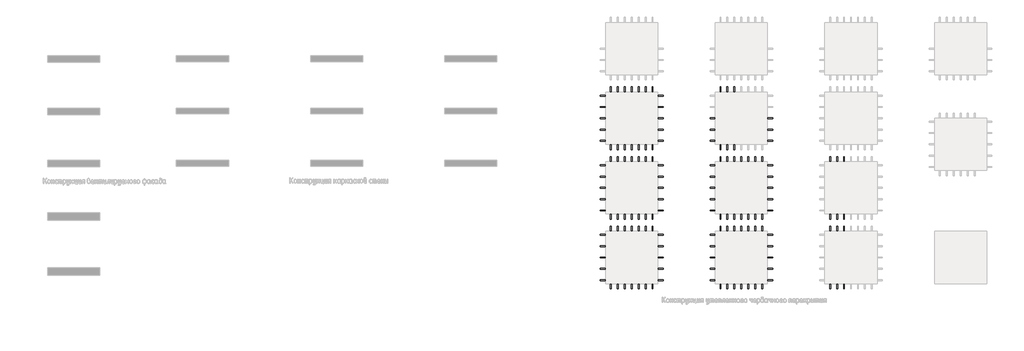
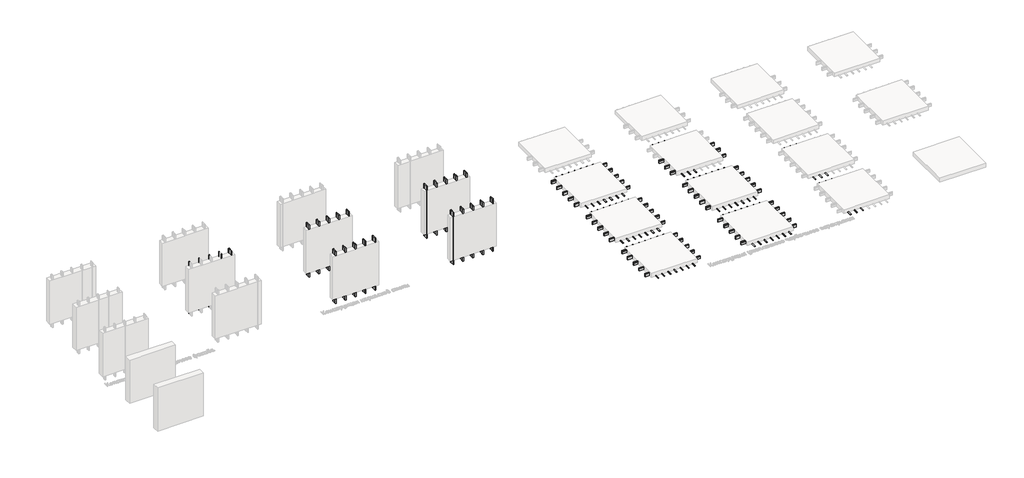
# One storey, part 2 of 42: 168 beams.
"""IFC4 building model written with IfcOpenShell, lengths in millimetres."""

from ifc_helpers import new_model, si_unit, origin, place, context, project, spatial, transform, mapped, element, save
from components import beam_10aa4ee0, beam_54a566a4, beam_d9e12bf5, beam_5dea3e8d

model = new_model("IFC4")

# Units and contexts
model_context = context("Model", 3, world=origin())
ifc_project = project(units=[si_unit("LENGTHUNIT", "METRE", prefix="MILLI")], contexts=[model_context])

# Site, building, storey
site = spatial("IfcSite", under=ifc_project)
building = spatial("IfcBuilding", under=site)
storey = spatial("IfcBuildingStorey", under=building, Name="Этаж 01", Elevation=0.0)

# Beams
placement = place(None, origin())
beam_shape = beam_10aa4ee0(model_context)
element("IfcBeam", 1, ObjectType="Деревянный брус : 50х150", at=placement, inside=storey, context=model_context, shape_type="MappedRepresentation", body=[
    mapped(beam_shape, transform((35613.2067679, -43726.7844763, -151.0), x_axis=(-1.0, 0.0, 0.0), y_axis=(0.0, -1.0, 0.0), z_axis=(0.0, 0.0, 1.0))),
])
element("IfcBeam", 2, ObjectType="Деревянный брус : 50х150", at=placement, inside=storey, context=model_context, shape_type="MappedRepresentation", body=[
    mapped(beam_shape, transform((35613.2067679, -43076.7844763, -151.0), x_axis=(-1.0, 0.0, 0.0), y_axis=(0.0, -1.0, 0.0), z_axis=(0.0, 0.0, 1.0))),
])
element("IfcBeam", 3, ObjectType="Деревянный брус : 50х150", at=placement, inside=storey, context=model_context, shape_type="MappedRepresentation", body=[
    mapped(beam_shape, transform((35613.2067679, -42426.7844763, -151.0), x_axis=(-1.0, 0.0, 0.0), y_axis=(0.0, -1.0, 0.0), z_axis=(0.0, 0.0, 1.0))),
])
element("IfcBeam", 4, ObjectType="Деревянный брус : 50х150", at=placement, inside=storey, context=model_context, shape_type="MappedRepresentation", body=[
    mapped(beam_shape, transform((35613.2067679, -41776.7844763, -151.0), x_axis=(-1.0, 0.0, 0.0), y_axis=(0.0, -1.0, 0.0), z_axis=(0.0, 0.0, 1.0))),
])
element("IfcBeam", 5, ObjectType="Деревянный брус : 50х150", at=placement, inside=storey, context=model_context, shape_type="MappedRepresentation", body=[
    mapped(beam_shape, transform((35613.2067679, -41126.7844763, -151.0), x_axis=(-1.0, 0.0, 0.0), y_axis=(0.0, -1.0, 0.0), z_axis=(0.0, 0.0, 1.0))),
])
element("IfcBeam", 6, ObjectType="Деревянный брус : 50х150", at=placement, inside=storey, context=model_context, shape_type="MappedRepresentation", body=[
    mapped(beam_shape, transform((35613.2067679, -39726.7844763, -151.0), x_axis=(-1.0, 0.0, 0.0), y_axis=(0.0, -1.0, 0.0), z_axis=(0.0, 0.0, 1.0))),
])
element("IfcBeam", 7, ObjectType="Деревянный брус : 50х150", at=placement, inside=storey, context=model_context, shape_type="MappedRepresentation", body=[
    mapped(beam_shape, transform((35613.2067679, -39076.7844763, -151.0), x_axis=(-1.0, 0.0, 0.0), y_axis=(0.0, -1.0, 0.0), z_axis=(0.0, 0.0, 1.0))),
])
element("IfcBeam", 8, ObjectType="Деревянный брус : 50х150", at=placement, inside=storey, context=model_context, shape_type="MappedRepresentation", body=[
    mapped(beam_shape, transform((35613.2067679, -38426.7844763, -151.0), x_axis=(-1.0, 0.0, 0.0), y_axis=(0.0, -1.0, 0.0), z_axis=(0.0, 0.0, 1.0))),
])
element("IfcBeam", 9, ObjectType="Деревянный брус : 50х150", at=placement, inside=storey, context=model_context, shape_type="MappedRepresentation", body=[
    mapped(beam_shape, transform((35613.2067679, -37776.7844763, -151.0), x_axis=(-1.0, 0.0, 0.0), y_axis=(0.0, -1.0, 0.0), z_axis=(0.0, 0.0, 1.0))),
])
element("IfcBeam", 10, ObjectType="Деревянный брус : 50х150", at=placement, inside=storey, context=model_context, shape_type="MappedRepresentation", body=[
    mapped(beam_shape, transform((35613.2067679, -37126.7844763, -151.0), x_axis=(-1.0, 0.0, 0.0), y_axis=(0.0, -1.0, 0.0), z_axis=(0.0, 0.0, 1.0))),
])
element("IfcBeam", 11, ObjectType="Деревянный брус : 50х150", at=placement, inside=storey, context=model_context, shape_type="MappedRepresentation", body=[
    mapped(beam_shape, transform((35613.2067679, -35726.7844763, -151.0), x_axis=(-1.0, 0.0, 0.0), y_axis=(0.0, -1.0, 0.0), z_axis=(0.0, 0.0, 1.0))),
])
element("IfcBeam", 12, ObjectType="Деревянный брус : 50х150", at=placement, inside=storey, context=model_context, shape_type="MappedRepresentation", body=[
    mapped(beam_shape, transform((35613.2067679, -35076.7844763, -151.0), x_axis=(-1.0, 0.0, 0.0), y_axis=(0.0, -1.0, 0.0), z_axis=(0.0, 0.0, 1.0))),
])
element("IfcBeam", 13, ObjectType="Деревянный брус : 50х150", at=placement, inside=storey, context=model_context, shape_type="MappedRepresentation", body=[
    mapped(beam_shape, transform((35613.2067679, -34426.7844763, -151.0), x_axis=(-1.0, 0.0, 0.0), y_axis=(0.0, -1.0, 0.0), z_axis=(0.0, 0.0, 1.0))),
])
element("IfcBeam", 14, ObjectType="Деревянный брус : 50х150", at=placement, inside=storey, context=model_context, shape_type="MappedRepresentation", body=[
    mapped(beam_shape, transform((35613.2067679, -33776.7844763, -151.0), x_axis=(-1.0, 0.0, 0.0), y_axis=(0.0, -1.0, 0.0), z_axis=(0.0, 0.0, 1.0))),
])
element("IfcBeam", 15, ObjectType="Деревянный брус : 50х150", at=placement, inside=storey, context=model_context, shape_type="MappedRepresentation", body=[
    mapped(beam_shape, transform((35613.2067679, -33126.7844763, -151.0), x_axis=(-1.0, 0.0, 0.0), y_axis=(0.0, -1.0, 0.0), z_axis=(0.0, 0.0, 1.0))),
])
element("IfcBeam", 16, ObjectType="Деревянный брус : 50х150", at=placement, inside=storey, context=model_context, shape_type="MappedRepresentation", body=[
    mapped(beam_shape, transform((41913.2067679, -43726.7844763, -151.0), x_axis=(-1.0, 0.0, 0.0), y_axis=(0.0, -1.0, 0.0), z_axis=(0.0, 0.0, 1.0))),
])
element("IfcBeam", 17, ObjectType="Деревянный брус : 50х150", at=placement, inside=storey, context=model_context, shape_type="MappedRepresentation", body=[
    mapped(beam_shape, transform((41913.2067679, -43076.7844763, -151.0), x_axis=(-1.0, 0.0, 0.0), y_axis=(0.0, -1.0, 0.0), z_axis=(0.0, 0.0, 1.0))),
])
element("IfcBeam", 18, ObjectType="Деревянный брус : 50х150", at=placement, inside=storey, context=model_context, shape_type="MappedRepresentation", body=[
    mapped(beam_shape, transform((41913.2067679, -42426.7844763, -151.0), x_axis=(-1.0, 0.0, 0.0), y_axis=(0.0, -1.0, 0.0), z_axis=(0.0, 0.0, 1.0))),
])
element("IfcBeam", 19, ObjectType="Деревянный брус : 50х150", at=placement, inside=storey, context=model_context, shape_type="MappedRepresentation", body=[
    mapped(beam_shape, transform((41913.2067679, -41776.7844763, -151.0), x_axis=(-1.0, 0.0, 0.0), y_axis=(0.0, -1.0, 0.0), z_axis=(0.0, 0.0, 1.0))),
])
element("IfcBeam", 20, ObjectType="Деревянный брус : 50х150", at=placement, inside=storey, context=model_context, shape_type="MappedRepresentation", body=[
    mapped(beam_shape, transform((41913.2067679, -41126.7844763, -151.0), x_axis=(-1.0, 0.0, 0.0), y_axis=(0.0, -1.0, 0.0), z_axis=(0.0, 0.0, 1.0))),
])
element("IfcBeam", 21, ObjectType="Деревянный брус : 50х150", at=placement, inside=storey, context=model_context, shape_type="MappedRepresentation", body=[
    mapped(beam_shape, transform((41913.2067679, -39726.7844763, -151.0), x_axis=(-1.0, 0.0, 0.0), y_axis=(0.0, -1.0, 0.0), z_axis=(0.0, 0.0, 1.0))),
])
element("IfcBeam", 22, ObjectType="Деревянный брус : 50х150", at=placement, inside=storey, context=model_context, shape_type="MappedRepresentation", body=[
    mapped(beam_shape, transform((41913.2067679, -39076.7844763, -151.0), x_axis=(-1.0, 0.0, 0.0), y_axis=(0.0, -1.0, 0.0), z_axis=(0.0, 0.0, 1.0))),
])
element("IfcBeam", 23, ObjectType="Деревянный брус : 50х150", at=placement, inside=storey, context=model_context, shape_type="MappedRepresentation", body=[
    mapped(beam_shape, transform((41913.2067679, -38426.7844763, -151.0), x_axis=(-1.0, 0.0, 0.0), y_axis=(0.0, -1.0, 0.0), z_axis=(0.0, 0.0, 1.0))),
])
element("IfcBeam", 24, ObjectType="Деревянный брус : 50х150", at=placement, inside=storey, context=model_context, shape_type="MappedRepresentation", body=[
    mapped(beam_shape, transform((41913.2067679, -37776.7844763, -151.0), x_axis=(-1.0, 0.0, 0.0), y_axis=(0.0, -1.0, 0.0), z_axis=(0.0, 0.0, 1.0))),
])
element("IfcBeam", 25, ObjectType="Деревянный брус : 50х150", at=placement, inside=storey, context=model_context, shape_type="MappedRepresentation", body=[
    mapped(beam_shape, transform((41913.2067679, -37126.7844763, -151.0), x_axis=(-1.0, 0.0, 0.0), y_axis=(0.0, -1.0, 0.0), z_axis=(0.0, 0.0, 1.0))),
])
element("IfcBeam", 26, ObjectType="Деревянный брус : 50х150", at=placement, inside=storey, context=model_context, shape_type="MappedRepresentation", body=[
    mapped(beam_shape, transform((41913.2067679, -35726.7844763, -151.0), x_axis=(-1.0, 0.0, 0.0), y_axis=(0.0, -1.0, 0.0), z_axis=(0.0, 0.0, 1.0))),
])
element("IfcBeam", 27, ObjectType="Деревянный брус : 50х150", at=placement, inside=storey, context=model_context, shape_type="MappedRepresentation", body=[
    mapped(beam_shape, transform((41913.2067679, -35076.7844763, -151.0), x_axis=(-1.0, 0.0, 0.0), y_axis=(0.0, -1.0, 0.0), z_axis=(0.0, 0.0, 1.0))),
])
element("IfcBeam", 28, ObjectType="Деревянный брус : 50х150", at=placement, inside=storey, context=model_context, shape_type="MappedRepresentation", body=[
    mapped(beam_shape, transform((41913.2067679, -34426.7844763, -151.0), x_axis=(-1.0, 0.0, 0.0), y_axis=(0.0, -1.0, 0.0), z_axis=(0.0, 0.0, 1.0))),
])
beam_2_shape = beam_54a566a4(model_context)
element("IfcBeam", 29, ObjectType="Деревянный брус : 50х50", at=placement, inside=storey, context=model_context, shape_type="MappedRepresentation", body=[
    mapped(beam_2_shape, transform((35613.2067679, -43726.7844763, -50.0), x_axis=(-1.0, 0.0, 0.0), y_axis=(0.0, -1.0, 0.0), z_axis=(0.0, 0.0, 1.0))),
])
element("IfcBeam", 30, ObjectType="Деревянный брус : 50х50", at=placement, inside=storey, context=model_context, shape_type="MappedRepresentation", body=[
    mapped(beam_2_shape, transform((35613.2067679, -43076.7844763, -50.0), x_axis=(-1.0, 0.0, 0.0), y_axis=(0.0, -1.0, 0.0), z_axis=(0.0, 0.0, 1.0))),
])
element("IfcBeam", 31, ObjectType="Деревянный брус : 50х50", at=placement, inside=storey, context=model_context, shape_type="MappedRepresentation", body=[
    mapped(beam_2_shape, transform((35613.2067679, -42426.7844763, -50.0), x_axis=(-1.0, 0.0, 0.0), y_axis=(0.0, -1.0, 0.0), z_axis=(0.0, 0.0, 1.0))),
])
element("IfcBeam", 32, ObjectType="Деревянный брус : 50х50", at=placement, inside=storey, context=model_context, shape_type="MappedRepresentation", body=[
    mapped(beam_2_shape, transform((35613.2067679, -41776.7844763, -50.0), x_axis=(-1.0, 0.0, 0.0), y_axis=(0.0, -1.0, 0.0), z_axis=(0.0, 0.0, 1.0))),
])
element("IfcBeam", 33, ObjectType="Деревянный брус : 50х50", at=placement, inside=storey, context=model_context, shape_type="MappedRepresentation", body=[
    mapped(beam_2_shape, transform((35613.2067679, -41126.7844763, -50.0), x_axis=(-1.0, 0.0, 0.0), y_axis=(0.0, -1.0, 0.0), z_axis=(0.0, 0.0, 1.0))),
])
element("IfcBeam", 34, ObjectType="Деревянный брус : 50х50", at=placement, inside=storey, context=model_context, shape_type="MappedRepresentation", body=[
    mapped(beam_2_shape, transform((12263.2067679, -34135.8929597, 1500.0), x_axis=(0.0, 0.0, -1.0), y_axis=(-1.0, 0.0, 0.0), z_axis=(0.0, 1.0, 0.0))),
])
element("IfcBeam", 35, ObjectType="Деревянный брус : 50х50", at=placement, inside=storey, context=model_context, shape_type="MappedRepresentation", body=[
    mapped(beam_2_shape, transform((11613.2067679, -34135.8929597, 1500.0), x_axis=(0.0, 0.0, -1.0), y_axis=(-1.0, 0.0, 0.0), z_axis=(0.0, 1.0, 0.0))),
])
element("IfcBeam", 36, ObjectType="Деревянный брус : 50х50", at=placement, inside=storey, context=model_context, shape_type="MappedRepresentation", body=[
    mapped(beam_2_shape, transform((12263.2067679, -33883.8929597, 1500.0), x_axis=(0.0, 0.0, -1.0), y_axis=(1.0, 0.0, 0.0), z_axis=(0.0, -1.0, 0.0))),
])
element("IfcBeam", 37, ObjectType="Деревянный брус : 50х50", at=placement, inside=storey, context=model_context, shape_type="MappedRepresentation", body=[
    mapped(beam_2_shape, transform((11613.2067679, -33883.8929597, 1500.0), x_axis=(0.0, 0.0, -1.0), y_axis=(1.0, 0.0, 0.0), z_axis=(0.0, -1.0, 0.0))),
])
element("IfcBeam", 38, ObjectType="Деревянный брус : 50х50", at=placement, inside=storey, context=model_context, shape_type="MappedRepresentation", body=[
    mapped(beam_2_shape, transform((10963.2067679, -33883.8929597, 1500.0), x_axis=(0.0, 0.0, -1.0), y_axis=(1.0, 0.0, 0.0), z_axis=(0.0, -1.0, 0.0))),
])
element("IfcBeam", 39, ObjectType="Деревянный брус : 50х50", at=placement, inside=storey, context=model_context, shape_type="MappedRepresentation", body=[
    mapped(beam_2_shape, transform((10313.2067679, -33883.8929597, 1500.0), x_axis=(0.0, 0.0, -1.0), y_axis=(1.0, 0.0, 0.0), z_axis=(0.0, -1.0, 0.0))),
])
element("IfcBeam", 40, ObjectType="Деревянный брус : 50х50", at=placement, inside=storey, context=model_context, shape_type="MappedRepresentation", body=[
    mapped(beam_2_shape, transform((9663.2067679, -33883.8929597, 1500.0), x_axis=(0.0, 0.0, -1.0), y_axis=(1.0, 0.0, 0.0), z_axis=(0.0, -1.0, 0.0))),
])
element("IfcBeam", 41, ObjectType="Деревянный брус : 50х50", at=placement, inside=storey, context=model_context, shape_type="MappedRepresentation", body=[
    mapped(beam_2_shape, transform((19963.2067679, -37135.8929597, 1500.0), x_axis=(0.0, 0.0, -1.0), y_axis=(-1.0, 0.0, 0.0), z_axis=(0.0, 1.0, 0.0))),
])
element("IfcBeam", 42, ObjectType="Деревянный брус : 50х50", at=placement, inside=storey, context=model_context, shape_type="MappedRepresentation", body=[
    mapped(beam_2_shape, transform((19313.2067679, -37135.8929597, 1500.0), x_axis=(0.0, 0.0, -1.0), y_axis=(-1.0, 0.0, 0.0), z_axis=(0.0, 1.0, 0.0))),
])
element("IfcBeam", 43, ObjectType="Деревянный брус : 50х50", at=placement, inside=storey, context=model_context, shape_type="MappedRepresentation", body=[
    mapped(beam_2_shape, transform((18663.2067679, -37135.8929597, 1500.0), x_axis=(0.0, 0.0, -1.0), y_axis=(-1.0, 0.0, 0.0), z_axis=(0.0, 1.0, 0.0))),
])
element("IfcBeam", 44, ObjectType="Деревянный брус : 50х50", at=placement, inside=storey, context=model_context, shape_type="MappedRepresentation", body=[
    mapped(beam_2_shape, transform((18013.2067679, -37135.8929597, 1500.0), x_axis=(0.0, 0.0, -1.0), y_axis=(-1.0, 0.0, 0.0), z_axis=(0.0, 1.0, 0.0))),
])
element("IfcBeam", 45, ObjectType="Деревянный брус : 50х50", at=placement, inside=storey, context=model_context, shape_type="MappedRepresentation", body=[
    mapped(beam_2_shape, transform((17363.2067679, -37135.8929597, 1500.0), x_axis=(0.0, 0.0, -1.0), y_axis=(-1.0, 0.0, 0.0), z_axis=(0.0, 1.0, 0.0))),
])
element("IfcBeam", 46, ObjectType="Деревянный брус : 50х50", at=placement, inside=storey, context=model_context, shape_type="MappedRepresentation", body=[
    mapped(beam_2_shape, transform((19963.2067679, -36883.8929597, 1500.0), x_axis=(0.0, 0.0, -1.0), y_axis=(1.0, 0.0, 0.0), z_axis=(0.0, -1.0, 0.0))),
])
element("IfcBeam", 47, ObjectType="Деревянный брус : 50х50", at=placement, inside=storey, context=model_context, shape_type="MappedRepresentation", body=[
    mapped(beam_2_shape, transform((19313.2067679, -36883.8929597, 1500.0), x_axis=(0.0, 0.0, -1.0), y_axis=(1.0, 0.0, 0.0), z_axis=(0.0, -1.0, 0.0))),
])
element("IfcBeam", 48, ObjectType="Деревянный брус : 50х50", at=placement, inside=storey, context=model_context, shape_type="MappedRepresentation", body=[
    mapped(beam_2_shape, transform((18663.2067679, -36883.8929597, 1500.0), x_axis=(0.0, 0.0, -1.0), y_axis=(1.0, 0.0, 0.0), z_axis=(0.0, -1.0, 0.0))),
])
element("IfcBeam", 49, ObjectType="Деревянный брус : 50х50", at=placement, inside=storey, context=model_context, shape_type="MappedRepresentation", body=[
    mapped(beam_2_shape, transform((18013.2067679, -36883.8929597, 1500.0), x_axis=(0.0, 0.0, -1.0), y_axis=(1.0, 0.0, 0.0), z_axis=(0.0, -1.0, 0.0))),
])
element("IfcBeam", 50, ObjectType="Деревянный брус : 50х50", at=placement, inside=storey, context=model_context, shape_type="MappedRepresentation", body=[
    mapped(beam_2_shape, transform((17363.2067679, -36883.8929597, 1500.0), x_axis=(0.0, 0.0, -1.0), y_axis=(1.0, 0.0, 0.0), z_axis=(0.0, -1.0, 0.0))),
])
element("IfcBeam", 51, ObjectType="Деревянный брус : 50х50", at=placement, inside=storey, context=model_context, shape_type="MappedRepresentation", body=[
    mapped(beam_2_shape, transform((19963.2067679, -34135.8929597, 1500.0), x_axis=(0.0, 0.0, -1.0), y_axis=(-1.0, 0.0, 0.0), z_axis=(0.0, 1.0, 0.0))),
])
element("IfcBeam", 52, ObjectType="Деревянный брус : 50х50", at=placement, inside=storey, context=model_context, shape_type="MappedRepresentation", body=[
    mapped(beam_2_shape, transform((19313.2067679, -34135.8929597, 1500.0), x_axis=(0.0, 0.0, -1.0), y_axis=(-1.0, 0.0, 0.0), z_axis=(0.0, 1.0, 0.0))),
])
element("IfcBeam", 53, ObjectType="Деревянный брус : 50х50", at=placement, inside=storey, context=model_context, shape_type="MappedRepresentation", body=[
    mapped(beam_2_shape, transform((18663.2067679, -34135.8929597, 1500.0), x_axis=(0.0, 0.0, -1.0), y_axis=(-1.0, 0.0, 0.0), z_axis=(0.0, 1.0, 0.0))),
])
element("IfcBeam", 54, ObjectType="Деревянный брус : 50х50", at=placement, inside=storey, context=model_context, shape_type="MappedRepresentation", body=[
    mapped(beam_2_shape, transform((18013.2067679, -34135.8929597, 1500.0), x_axis=(0.0, 0.0, -1.0), y_axis=(-1.0, 0.0, 0.0), z_axis=(0.0, 1.0, 0.0))),
])
element("IfcBeam", 55, ObjectType="Деревянный брус : 50х50", at=placement, inside=storey, context=model_context, shape_type="MappedRepresentation", body=[
    mapped(beam_2_shape, transform((17363.2067679, -34135.8929597, 1500.0), x_axis=(0.0, 0.0, -1.0), y_axis=(-1.0, 0.0, 0.0), z_axis=(0.0, 1.0, 0.0))),
])
element("IfcBeam", 56, ObjectType="Деревянный брус : 50х50", at=placement, inside=storey, context=model_context, shape_type="MappedRepresentation", body=[
    mapped(beam_2_shape, transform((19963.2067679, -33883.8929597, 1500.0), x_axis=(0.0, 0.0, -1.0), y_axis=(1.0, 0.0, 0.0), z_axis=(0.0, -1.0, 0.0))),
])
element("IfcBeam", 57, ObjectType="Деревянный брус : 50х50", at=placement, inside=storey, context=model_context, shape_type="MappedRepresentation", body=[
    mapped(beam_2_shape, transform((19313.2067679, -33883.8929597, 1500.0), x_axis=(0.0, 0.0, -1.0), y_axis=(1.0, 0.0, 0.0), z_axis=(0.0, -1.0, 0.0))),
])
element("IfcBeam", 58, ObjectType="Деревянный брус : 50х50", at=placement, inside=storey, context=model_context, shape_type="MappedRepresentation", body=[
    mapped(beam_2_shape, transform((18663.2067679, -33883.8929597, 1500.0), x_axis=(0.0, 0.0, -1.0), y_axis=(1.0, 0.0, 0.0), z_axis=(0.0, -1.0, 0.0))),
])
element("IfcBeam", 59, ObjectType="Деревянный брус : 50х50", at=placement, inside=storey, context=model_context, shape_type="MappedRepresentation", body=[
    mapped(beam_2_shape, transform((18013.2067679, -33883.8929597, 1500.0), x_axis=(0.0, 0.0, -1.0), y_axis=(1.0, 0.0, 0.0), z_axis=(0.0, -1.0, 0.0))),
])
element("IfcBeam", 60, ObjectType="Деревянный брус : 50х50", at=placement, inside=storey, context=model_context, shape_type="MappedRepresentation", body=[
    mapped(beam_2_shape, transform((17363.2067679, -33883.8929597, 1500.0), x_axis=(0.0, 0.0, -1.0), y_axis=(1.0, 0.0, 0.0), z_axis=(0.0, -1.0, 0.0))),
])
element("IfcBeam", 61, ObjectType="Деревянный брус : 50х50", at=placement, inside=storey, context=model_context, shape_type="MappedRepresentation", body=[
    mapped(beam_2_shape, transform((27663.2067679, -37135.8929597, 1500.0), x_axis=(0.0, 0.0, -1.0), y_axis=(-1.0, 0.0, 0.0), z_axis=(0.0, 1.0, 0.0))),
])
element("IfcBeam", 62, ObjectType="Деревянный брус : 50х50", at=placement, inside=storey, context=model_context, shape_type="MappedRepresentation", body=[
    mapped(beam_2_shape, transform((27013.2067679, -37135.8929597, 1500.0), x_axis=(0.0, 0.0, -1.0), y_axis=(-1.0, 0.0, 0.0), z_axis=(0.0, 1.0, 0.0))),
])
element("IfcBeam", 63, ObjectType="Деревянный брус : 50х50", at=placement, inside=storey, context=model_context, shape_type="MappedRepresentation", body=[
    mapped(beam_2_shape, transform((26363.2067679, -37135.8929597, 1500.0), x_axis=(0.0, 0.0, -1.0), y_axis=(-1.0, 0.0, 0.0), z_axis=(0.0, 1.0, 0.0))),
])
element("IfcBeam", 64, ObjectType="Деревянный брус : 50х50", at=placement, inside=storey, context=model_context, shape_type="MappedRepresentation", body=[
    mapped(beam_2_shape, transform((25713.2067679, -37135.8929597, 1500.0), x_axis=(0.0, 0.0, -1.0), y_axis=(-1.0, 0.0, 0.0), z_axis=(0.0, 1.0, 0.0))),
])
element("IfcBeam", 65, ObjectType="Деревянный брус : 50х50", at=placement, inside=storey, context=model_context, shape_type="MappedRepresentation", body=[
    mapped(beam_2_shape, transform((25063.2067679, -37135.8929597, 1500.0), x_axis=(0.0, 0.0, -1.0), y_axis=(-1.0, 0.0, 0.0), z_axis=(0.0, 1.0, 0.0))),
])
element("IfcBeam", 66, ObjectType="Деревянный брус : 50х50", at=placement, inside=storey, context=model_context, shape_type="MappedRepresentation", body=[
    mapped(beam_2_shape, transform((27663.2067679, -36883.8929597, 1500.0), x_axis=(0.0, 0.0, -1.0), y_axis=(1.0, 0.0, 0.0), z_axis=(0.0, -1.0, 0.0))),
])
element("IfcBeam", 67, ObjectType="Деревянный брус : 50х50", at=placement, inside=storey, context=model_context, shape_type="MappedRepresentation", body=[
    mapped(beam_2_shape, transform((27013.2067679, -36883.8929597, 1500.0), x_axis=(0.0, 0.0, -1.0), y_axis=(1.0, 0.0, 0.0), z_axis=(0.0, -1.0, 0.0))),
])
element("IfcBeam", 68, ObjectType="Деревянный брус : 50х50", at=placement, inside=storey, context=model_context, shape_type="MappedRepresentation", body=[
    mapped(beam_2_shape, transform((26363.2067679, -36883.8929597, 1500.0), x_axis=(0.0, 0.0, -1.0), y_axis=(1.0, 0.0, 0.0), z_axis=(0.0, -1.0, 0.0))),
])
element("IfcBeam", 69, ObjectType="Деревянный брус : 50х50", at=placement, inside=storey, context=model_context, shape_type="MappedRepresentation", body=[
    mapped(beam_2_shape, transform((25713.2067679, -36883.8929597, 1500.0), x_axis=(0.0, 0.0, -1.0), y_axis=(1.0, 0.0, 0.0), z_axis=(0.0, -1.0, 0.0))),
])
element("IfcBeam", 70, ObjectType="Деревянный брус : 50х50", at=placement, inside=storey, context=model_context, shape_type="MappedRepresentation", body=[
    mapped(beam_2_shape, transform((25063.2067679, -36883.8929597, 1500.0), x_axis=(0.0, 0.0, -1.0), y_axis=(1.0, 0.0, 0.0), z_axis=(0.0, -1.0, 0.0))),
])
element("IfcBeam", 71, ObjectType="Деревянный брус : 50х50", at=placement, inside=storey, context=model_context, shape_type="MappedRepresentation", body=[
    mapped(beam_2_shape, transform((27663.2067679, -34135.8929597, 1500.0), x_axis=(0.0, 0.0, -1.0), y_axis=(-1.0, 0.0, 0.0), z_axis=(0.0, 1.0, 0.0))),
])
element("IfcBeam", 72, ObjectType="Деревянный брус : 50х50", at=placement, inside=storey, context=model_context, shape_type="MappedRepresentation", body=[
    mapped(beam_2_shape, transform((27013.2067679, -34135.8929597, 1500.0), x_axis=(0.0, 0.0, -1.0), y_axis=(-1.0, 0.0, 0.0), z_axis=(0.0, 1.0, 0.0))),
])
element("IfcBeam", 73, ObjectType="Деревянный брус : 50х50", at=placement, inside=storey, context=model_context, shape_type="MappedRepresentation", body=[
    mapped(beam_2_shape, transform((26363.2067679, -34135.8929597, 1500.0), x_axis=(0.0, 0.0, -1.0), y_axis=(-1.0, 0.0, 0.0), z_axis=(0.0, 1.0, 0.0))),
])
element("IfcBeam", 74, ObjectType="Деревянный брус : 50х50", at=placement, inside=storey, context=model_context, shape_type="MappedRepresentation", body=[
    mapped(beam_2_shape, transform((25713.2067679, -34135.8929597, 1500.0), x_axis=(0.0, 0.0, -1.0), y_axis=(-1.0, 0.0, 0.0), z_axis=(0.0, 1.0, 0.0))),
])
element("IfcBeam", 75, ObjectType="Деревянный брус : 50х50", at=placement, inside=storey, context=model_context, shape_type="MappedRepresentation", body=[
    mapped(beam_2_shape, transform((25063.2067679, -34135.8929597, 1500.0), x_axis=(0.0, 0.0, -1.0), y_axis=(-1.0, 0.0, 0.0), z_axis=(0.0, 1.0, 0.0))),
])
element("IfcBeam", 76, ObjectType="Деревянный брус : 50х50", at=placement, inside=storey, context=model_context, shape_type="MappedRepresentation", body=[
    mapped(beam_2_shape, transform((27663.2067679, -33883.8929597, 1500.0), x_axis=(0.0, 0.0, -1.0), y_axis=(1.0, 0.0, 0.0), z_axis=(0.0, -1.0, 0.0))),
])
element("IfcBeam", 77, ObjectType="Деревянный брус : 50х50", at=placement, inside=storey, context=model_context, shape_type="MappedRepresentation", body=[
    mapped(beam_2_shape, transform((27013.2067679, -33883.8929597, 1500.0), x_axis=(0.0, 0.0, -1.0), y_axis=(1.0, 0.0, 0.0), z_axis=(0.0, -1.0, 0.0))),
])
element("IfcBeam", 78, ObjectType="Деревянный брус : 50х50", at=placement, inside=storey, context=model_context, shape_type="MappedRepresentation", body=[
    mapped(beam_2_shape, transform((26363.2067679, -33883.8929597, 1500.0), x_axis=(0.0, 0.0, -1.0), y_axis=(1.0, 0.0, 0.0), z_axis=(0.0, -1.0, 0.0))),
])
element("IfcBeam", 79, ObjectType="Деревянный брус : 50х50", at=placement, inside=storey, context=model_context, shape_type="MappedRepresentation", body=[
    mapped(beam_2_shape, transform((25713.2067679, -33883.8929597, 1500.0), x_axis=(0.0, 0.0, -1.0), y_axis=(1.0, 0.0, 0.0), z_axis=(0.0, -1.0, 0.0))),
])
element("IfcBeam", 80, ObjectType="Деревянный брус : 50х50", at=placement, inside=storey, context=model_context, shape_type="MappedRepresentation", body=[
    mapped(beam_2_shape, transform((25063.2067679, -33883.8929597, 1500.0), x_axis=(0.0, 0.0, -1.0), y_axis=(1.0, 0.0, 0.0), z_axis=(0.0, -1.0, 0.0))),
])
element("IfcBeam", 81, ObjectType="Деревянный брус : 50х50", at=placement, inside=storey, context=model_context, shape_type="MappedRepresentation", body=[
    mapped(beam_2_shape, transform((35613.2067679, -39726.7844763, -50.0), x_axis=(-1.0, 0.0, 0.0), y_axis=(0.0, -1.0, 0.0), z_axis=(0.0, 0.0, 1.0))),
])
element("IfcBeam", 82, ObjectType="Деревянный брус : 50х50", at=placement, inside=storey, context=model_context, shape_type="MappedRepresentation", body=[
    mapped(beam_2_shape, transform((35613.2067679, -39076.7844763, -50.0), x_axis=(-1.0, 0.0, 0.0), y_axis=(0.0, -1.0, 0.0), z_axis=(0.0, 0.0, 1.0))),
])
element("IfcBeam", 83, ObjectType="Деревянный брус : 50х50", at=placement, inside=storey, context=model_context, shape_type="MappedRepresentation", body=[
    mapped(beam_2_shape, transform((35613.2067679, -38426.7844763, -50.0), x_axis=(-1.0, 0.0, 0.0), y_axis=(0.0, -1.0, 0.0), z_axis=(0.0, 0.0, 1.0))),
])
element("IfcBeam", 84, ObjectType="Деревянный брус : 50х50", at=placement, inside=storey, context=model_context, shape_type="MappedRepresentation", body=[
    mapped(beam_2_shape, transform((35613.2067679, -37776.7844763, -50.0), x_axis=(-1.0, 0.0, 0.0), y_axis=(0.0, -1.0, 0.0), z_axis=(0.0, 0.0, 1.0))),
])
element("IfcBeam", 85, ObjectType="Деревянный брус : 50х50", at=placement, inside=storey, context=model_context, shape_type="MappedRepresentation", body=[
    mapped(beam_2_shape, transform((35613.2067679, -37126.7844763, -50.0), x_axis=(-1.0, 0.0, 0.0), y_axis=(0.0, -1.0, 0.0), z_axis=(0.0, 0.0, 1.0))),
])
element("IfcBeam", 86, ObjectType="Деревянный брус : 50х50", at=placement, inside=storey, context=model_context, shape_type="MappedRepresentation", body=[
    mapped(beam_2_shape, transform((35613.2067679, -35726.7844763, -50.0), x_axis=(-1.0, 0.0, 0.0), y_axis=(0.0, -1.0, 0.0), z_axis=(0.0, 0.0, 1.0))),
])
element("IfcBeam", 87, ObjectType="Деревянный брус : 50х50", at=placement, inside=storey, context=model_context, shape_type="MappedRepresentation", body=[
    mapped(beam_2_shape, transform((35613.2067679, -35076.7844763, -50.0), x_axis=(-1.0, 0.0, 0.0), y_axis=(0.0, -1.0, 0.0), z_axis=(0.0, 0.0, 1.0))),
])
element("IfcBeam", 88, ObjectType="Деревянный брус : 50х50", at=placement, inside=storey, context=model_context, shape_type="MappedRepresentation", body=[
    mapped(beam_2_shape, transform((35613.2067679, -34426.7844763, -50.0), x_axis=(-1.0, 0.0, 0.0), y_axis=(0.0, -1.0, 0.0), z_axis=(0.0, 0.0, 1.0))),
])
element("IfcBeam", 89, ObjectType="Деревянный брус : 50х50", at=placement, inside=storey, context=model_context, shape_type="MappedRepresentation", body=[
    mapped(beam_2_shape, transform((35613.2067679, -33776.7844763, -50.0), x_axis=(-1.0, 0.0, 0.0), y_axis=(0.0, -1.0, 0.0), z_axis=(0.0, 0.0, 1.0))),
])
element("IfcBeam", 90, ObjectType="Деревянный брус : 50х50", at=placement, inside=storey, context=model_context, shape_type="MappedRepresentation", body=[
    mapped(beam_2_shape, transform((35613.2067679, -33126.7844763, -50.0), x_axis=(-1.0, 0.0, 0.0), y_axis=(0.0, -1.0, 0.0), z_axis=(0.0, 0.0, 1.0))),
])
element("IfcBeam", 91, ObjectType="Деревянный брус : 50х50", at=placement, inside=storey, context=model_context, shape_type="MappedRepresentation", body=[
    mapped(beam_2_shape, transform((41913.2067679, -43726.7844763, -50.0), x_axis=(-1.0, 0.0, 0.0), y_axis=(0.0, -1.0, 0.0), z_axis=(0.0, 0.0, 1.0))),
])
element("IfcBeam", 92, ObjectType="Деревянный брус : 50х50", at=placement, inside=storey, context=model_context, shape_type="MappedRepresentation", body=[
    mapped(beam_2_shape, transform((41913.2067679, -43076.7844763, -50.0), x_axis=(-1.0, 0.0, 0.0), y_axis=(0.0, -1.0, 0.0), z_axis=(0.0, 0.0, 1.0))),
])
element("IfcBeam", 93, ObjectType="Деревянный брус : 50х50", at=placement, inside=storey, context=model_context, shape_type="MappedRepresentation", body=[
    mapped(beam_2_shape, transform((41913.2067679, -42426.7844763, -50.0), x_axis=(-1.0, 0.0, 0.0), y_axis=(0.0, -1.0, 0.0), z_axis=(0.0, 0.0, 1.0))),
])
element("IfcBeam", 94, ObjectType="Деревянный брус : 50х50", at=placement, inside=storey, context=model_context, shape_type="MappedRepresentation", body=[
    mapped(beam_2_shape, transform((41913.2067679, -41776.7844763, -50.0), x_axis=(-1.0, 0.0, 0.0), y_axis=(0.0, -1.0, 0.0), z_axis=(0.0, 0.0, 1.0))),
])
element("IfcBeam", 95, ObjectType="Деревянный брус : 50х50", at=placement, inside=storey, context=model_context, shape_type="MappedRepresentation", body=[
    mapped(beam_2_shape, transform((41913.2067679, -41126.7844763, -50.0), x_axis=(-1.0, 0.0, 0.0), y_axis=(0.0, -1.0, 0.0), z_axis=(0.0, 0.0, 1.0))),
])
element("IfcBeam", 96, ObjectType="Деревянный брус : 50х50", at=placement, inside=storey, context=model_context, shape_type="MappedRepresentation", body=[
    mapped(beam_2_shape, transform((41913.2067679, -39726.7844763, -50.0), x_axis=(-1.0, 0.0, 0.0), y_axis=(0.0, -1.0, 0.0), z_axis=(0.0, 0.0, 1.0))),
])
element("IfcBeam", 97, ObjectType="Деревянный брус : 50х50", at=placement, inside=storey, context=model_context, shape_type="MappedRepresentation", body=[
    mapped(beam_2_shape, transform((41913.2067679, -39076.7844763, -50.0), x_axis=(-1.0, 0.0, 0.0), y_axis=(0.0, -1.0, 0.0), z_axis=(0.0, 0.0, 1.0))),
])
element("IfcBeam", 98, ObjectType="Деревянный брус : 50х50", at=placement, inside=storey, context=model_context, shape_type="MappedRepresentation", body=[
    mapped(beam_2_shape, transform((41913.2067679, -38426.7844763, -50.0), x_axis=(-1.0, 0.0, 0.0), y_axis=(0.0, -1.0, 0.0), z_axis=(0.0, 0.0, 1.0))),
])
element("IfcBeam", 99, ObjectType="Деревянный брус : 50х50", at=placement, inside=storey, context=model_context, shape_type="MappedRepresentation", body=[
    mapped(beam_2_shape, transform((41913.2067679, -37776.7844763, -50.0), x_axis=(-1.0, 0.0, 0.0), y_axis=(0.0, -1.0, 0.0), z_axis=(0.0, 0.0, 1.0))),
])
element("IfcBeam", 100, ObjectType="Деревянный брус : 50х50", at=placement, inside=storey, context=model_context, shape_type="MappedRepresentation", body=[
    mapped(beam_2_shape, transform((41913.2067679, -37126.7844763, -50.0), x_axis=(-1.0, 0.0, 0.0), y_axis=(0.0, -1.0, 0.0), z_axis=(0.0, 0.0, 1.0))),
])
element("IfcBeam", 101, ObjectType="Деревянный брус : 50х50", at=placement, inside=storey, context=model_context, shape_type="MappedRepresentation", body=[
    mapped(beam_2_shape, transform((41913.2067679, -35726.7844763, -50.0), x_axis=(-1.0, 0.0, 0.0), y_axis=(0.0, -1.0, 0.0), z_axis=(0.0, 0.0, 1.0))),
])
element("IfcBeam", 102, ObjectType="Деревянный брус : 50х50", at=placement, inside=storey, context=model_context, shape_type="MappedRepresentation", body=[
    mapped(beam_2_shape, transform((41913.2067679, -35076.7844763, -50.0), x_axis=(-1.0, 0.0, 0.0), y_axis=(0.0, -1.0, 0.0), z_axis=(0.0, 0.0, 1.0))),
])
element("IfcBeam", 103, ObjectType="Деревянный брус : 50х50", at=placement, inside=storey, context=model_context, shape_type="MappedRepresentation", body=[
    mapped(beam_2_shape, transform((41913.2067679, -34426.7844763, -50.0), x_axis=(-1.0, 0.0, 0.0), y_axis=(0.0, -1.0, 0.0), z_axis=(0.0, 0.0, 1.0))),
])
beam_3_shape = beam_d9e12bf5(model_context)
element("IfcBeam", 104, ObjectType="Деревянный брус : 50х25", at=placement, inside=storey, context=model_context, shape_type="MappedRepresentation", body=[
    mapped(beam_3_shape, transform((34413.2067679, -42426.7844763, -239.5), x_axis=(0.0, 1.0, 0.0), y_axis=(-1.0, 0.0, 0.0), z_axis=(0.0, 0.0, 1.0))),
])
element("IfcBeam", 105, ObjectType="Деревянный брус : 50х25", at=placement, inside=storey, context=model_context, shape_type="MappedRepresentation", body=[
    mapped(beam_3_shape, transform((34813.2067679, -42426.7844763, -239.5), x_axis=(0.0, 1.0, 0.0), y_axis=(-1.0, 0.0, 0.0), z_axis=(0.0, 0.0, 1.0))),
])
element("IfcBeam", 106, ObjectType="Деревянный брус : 50х25", at=placement, inside=storey, context=model_context, shape_type="MappedRepresentation", body=[
    mapped(beam_3_shape, transform((35213.2067679, -42426.7844763, -239.5), x_axis=(0.0, 1.0, 0.0), y_axis=(-1.0, 0.0, 0.0), z_axis=(0.0, 0.0, 1.0))),
])
element("IfcBeam", 107, ObjectType="Деревянный брус : 50х25", at=placement, inside=storey, context=model_context, shape_type="MappedRepresentation", body=[
    mapped(beam_3_shape, transform((35613.2067679, -42426.7844763, -239.5), x_axis=(0.0, 1.0, 0.0), y_axis=(-1.0, 0.0, 0.0), z_axis=(0.0, 0.0, 1.0))),
])
element("IfcBeam", 108, ObjectType="Деревянный брус : 50х25", at=placement, inside=storey, context=model_context, shape_type="MappedRepresentation", body=[
    mapped(beam_3_shape, transform((36013.2067679, -42426.7844763, -239.5), x_axis=(0.0, 1.0, 0.0), y_axis=(-1.0, 0.0, 0.0), z_axis=(0.0, 0.0, 1.0))),
])
element("IfcBeam", 109, ObjectType="Деревянный брус : 50х25", at=placement, inside=storey, context=model_context, shape_type="MappedRepresentation", body=[
    mapped(beam_3_shape, transform((36413.2067679, -42426.7844763, -239.5), x_axis=(0.0, 1.0, 0.0), y_axis=(-1.0, 0.0, 0.0), z_axis=(0.0, 0.0, 1.0))),
])
element("IfcBeam", 110, ObjectType="Деревянный брус : 50х25", at=placement, inside=storey, context=model_context, shape_type="MappedRepresentation", body=[
    mapped(beam_3_shape, transform((36813.2067679, -42426.7844763, -239.5), x_axis=(0.0, 1.0, 0.0), y_axis=(-1.0, 0.0, 0.0), z_axis=(0.0, 0.0, 1.0))),
])
element("IfcBeam", 111, ObjectType="Деревянный брус : 50х25", at=placement, inside=storey, context=model_context, shape_type="MappedRepresentation", body=[
    mapped(beam_3_shape, transform((34413.2067679, -38426.7844763, -239.5), x_axis=(0.0, 1.0, 0.0), y_axis=(-1.0, 0.0, 0.0), z_axis=(0.0, 0.0, 1.0))),
])
element("IfcBeam", 112, ObjectType="Деревянный брус : 50х25", at=placement, inside=storey, context=model_context, shape_type="MappedRepresentation", body=[
    mapped(beam_3_shape, transform((34813.2067679, -38426.7844763, -239.5), x_axis=(0.0, 1.0, 0.0), y_axis=(-1.0, 0.0, 0.0), z_axis=(0.0, 0.0, 1.0))),
])
element("IfcBeam", 113, ObjectType="Деревянный брус : 50х25", at=placement, inside=storey, context=model_context, shape_type="MappedRepresentation", body=[
    mapped(beam_3_shape, transform((35213.2067679, -38426.7844763, -239.5), x_axis=(0.0, 1.0, 0.0), y_axis=(-1.0, 0.0, 0.0), z_axis=(0.0, 0.0, 1.0))),
])
element("IfcBeam", 114, ObjectType="Деревянный брус : 50х25", at=placement, inside=storey, context=model_context, shape_type="MappedRepresentation", body=[
    mapped(beam_3_shape, transform((35613.2067679, -38426.7844763, -239.5), x_axis=(0.0, 1.0, 0.0), y_axis=(-1.0, 0.0, 0.0), z_axis=(0.0, 0.0, 1.0))),
])
element("IfcBeam", 115, ObjectType="Деревянный брус : 50х25", at=placement, inside=storey, context=model_context, shape_type="MappedRepresentation", body=[
    mapped(beam_3_shape, transform((36013.2067679, -38426.7844763, -239.5), x_axis=(0.0, 1.0, 0.0), y_axis=(-1.0, 0.0, 0.0), z_axis=(0.0, 0.0, 1.0))),
])
element("IfcBeam", 116, ObjectType="Деревянный брус : 50х25", at=placement, inside=storey, context=model_context, shape_type="MappedRepresentation", body=[
    mapped(beam_3_shape, transform((36413.2067679, -38426.7844763, -239.5), x_axis=(0.0, 1.0, 0.0), y_axis=(-1.0, 0.0, 0.0), z_axis=(0.0, 0.0, 1.0))),
])
element("IfcBeam", 117, ObjectType="Деревянный брус : 50х25", at=placement, inside=storey, context=model_context, shape_type="MappedRepresentation", body=[
    mapped(beam_3_shape, transform((36813.2067679, -38426.7844763, -239.5), x_axis=(0.0, 1.0, 0.0), y_axis=(-1.0, 0.0, 0.0), z_axis=(0.0, 0.0, 1.0))),
])
element("IfcBeam", 118, ObjectType="Деревянный брус : 50х25", at=placement, inside=storey, context=model_context, shape_type="MappedRepresentation", body=[
    mapped(beam_3_shape, transform((34413.2067679, -34426.7844763, -239.5), x_axis=(0.0, 1.0, 0.0), y_axis=(-1.0, 0.0, 0.0), z_axis=(0.0, 0.0, 1.0))),
])
element("IfcBeam", 119, ObjectType="Деревянный брус : 50х25", at=placement, inside=storey, context=model_context, shape_type="MappedRepresentation", body=[
    mapped(beam_3_shape, transform((34813.2067679, -34426.7844763, -239.5), x_axis=(0.0, 1.0, 0.0), y_axis=(-1.0, 0.0, 0.0), z_axis=(0.0, 0.0, 1.0))),
])
element("IfcBeam", 120, ObjectType="Деревянный брус : 50х25", at=placement, inside=storey, context=model_context, shape_type="MappedRepresentation", body=[
    mapped(beam_3_shape, transform((35213.2067679, -34426.7844763, -239.5), x_axis=(0.0, 1.0, 0.0), y_axis=(-1.0, 0.0, 0.0), z_axis=(0.0, 0.0, 1.0))),
])
element("IfcBeam", 121, ObjectType="Деревянный брус : 50х25", at=placement, inside=storey, context=model_context, shape_type="MappedRepresentation", body=[
    mapped(beam_3_shape, transform((35613.2067679, -34426.7844763, -239.5), x_axis=(0.0, 1.0, 0.0), y_axis=(-1.0, 0.0, 0.0), z_axis=(0.0, 0.0, 1.0))),
])
element("IfcBeam", 122, ObjectType="Деревянный брус : 50х25", at=placement, inside=storey, context=model_context, shape_type="MappedRepresentation", body=[
    mapped(beam_3_shape, transform((36013.2067679, -34426.7844763, -239.5), x_axis=(0.0, 1.0, 0.0), y_axis=(-1.0, 0.0, 0.0), z_axis=(0.0, 0.0, 1.0))),
])
element("IfcBeam", 123, ObjectType="Деревянный брус : 50х25", at=placement, inside=storey, context=model_context, shape_type="MappedRepresentation", body=[
    mapped(beam_3_shape, transform((36413.2067679, -34426.7844763, -239.5), x_axis=(0.0, 1.0, 0.0), y_axis=(-1.0, 0.0, 0.0), z_axis=(0.0, 0.0, 1.0))),
])
element("IfcBeam", 124, ObjectType="Деревянный брус : 50х25", at=placement, inside=storey, context=model_context, shape_type="MappedRepresentation", body=[
    mapped(beam_3_shape, transform((36813.2067679, -34426.7844763, -239.5), x_axis=(0.0, 1.0, 0.0), y_axis=(-1.0, 0.0, 0.0), z_axis=(0.0, 0.0, 1.0))),
])
element("IfcBeam", 125, ObjectType="Деревянный брус : 50х25", at=placement, inside=storey, context=model_context, shape_type="MappedRepresentation", body=[
    mapped(beam_3_shape, transform((40713.2067679, -42426.7844763, -239.5), x_axis=(0.0, 1.0, 0.0), y_axis=(-1.0, 0.0, 0.0), z_axis=(0.0, 0.0, 1.0))),
])
element("IfcBeam", 126, ObjectType="Деревянный брус : 50х25", at=placement, inside=storey, context=model_context, shape_type="MappedRepresentation", body=[
    mapped(beam_3_shape, transform((41113.2067679, -42426.7844763, -239.5), x_axis=(0.0, 1.0, 0.0), y_axis=(-1.0, 0.0, 0.0), z_axis=(0.0, 0.0, 1.0))),
])
element("IfcBeam", 127, ObjectType="Деревянный брус : 50х25", at=placement, inside=storey, context=model_context, shape_type="MappedRepresentation", body=[
    mapped(beam_3_shape, transform((41513.2067679, -42426.7844763, -239.5), x_axis=(0.0, 1.0, 0.0), y_axis=(-1.0, 0.0, 0.0), z_axis=(0.0, 0.0, 1.0))),
])
element("IfcBeam", 128, ObjectType="Деревянный брус : 50х25", at=placement, inside=storey, context=model_context, shape_type="MappedRepresentation", body=[
    mapped(beam_3_shape, transform((41913.2067679, -42426.7844763, -239.5), x_axis=(0.0, 1.0, 0.0), y_axis=(-1.0, 0.0, 0.0), z_axis=(0.0, 0.0, 1.0))),
])
element("IfcBeam", 129, ObjectType="Деревянный брус : 50х25", at=placement, inside=storey, context=model_context, shape_type="MappedRepresentation", body=[
    mapped(beam_3_shape, transform((42313.2067679, -42426.7844763, -239.5), x_axis=(0.0, 1.0, 0.0), y_axis=(-1.0, 0.0, 0.0), z_axis=(0.0, 0.0, 1.0))),
])
element("IfcBeam", 130, ObjectType="Деревянный брус : 50х25", at=placement, inside=storey, context=model_context, shape_type="MappedRepresentation", body=[
    mapped(beam_3_shape, transform((42713.2067679, -42426.7844763, -239.5), x_axis=(0.0, 1.0, 0.0), y_axis=(-1.0, 0.0, 0.0), z_axis=(0.0, 0.0, 1.0))),
])
element("IfcBeam", 131, ObjectType="Деревянный брус : 50х25", at=placement, inside=storey, context=model_context, shape_type="MappedRepresentation", body=[
    mapped(beam_3_shape, transform((43113.2067679, -42426.7844763, -239.5), x_axis=(0.0, 1.0, 0.0), y_axis=(-1.0, 0.0, 0.0), z_axis=(0.0, 0.0, 1.0))),
])
element("IfcBeam", 132, ObjectType="Деревянный брус : 50х25", at=placement, inside=storey, context=model_context, shape_type="MappedRepresentation", body=[
    mapped(beam_3_shape, transform((40713.2067679, -38426.7844763, -239.5), x_axis=(0.0, 1.0, 0.0), y_axis=(-1.0, 0.0, 0.0), z_axis=(0.0, 0.0, 1.0))),
])
element("IfcBeam", 133, ObjectType="Деревянный брус : 50х25", at=placement, inside=storey, context=model_context, shape_type="MappedRepresentation", body=[
    mapped(beam_3_shape, transform((41113.2067679, -38426.7844763, -239.5), x_axis=(0.0, 1.0, 0.0), y_axis=(-1.0, 0.0, 0.0), z_axis=(0.0, 0.0, 1.0))),
])
element("IfcBeam", 134, ObjectType="Деревянный брус : 50х25", at=placement, inside=storey, context=model_context, shape_type="MappedRepresentation", body=[
    mapped(beam_3_shape, transform((41513.2067679, -38426.7844763, -239.5), x_axis=(0.0, 1.0, 0.0), y_axis=(-1.0, 0.0, 0.0), z_axis=(0.0, 0.0, 1.0))),
])
element("IfcBeam", 135, ObjectType="Деревянный брус : 50х25", at=placement, inside=storey, context=model_context, shape_type="MappedRepresentation", body=[
    mapped(beam_3_shape, transform((41913.2067679, -38426.7844763, -239.5), x_axis=(0.0, 1.0, 0.0), y_axis=(-1.0, 0.0, 0.0), z_axis=(0.0, 0.0, 1.0))),
])
element("IfcBeam", 136, ObjectType="Деревянный брус : 50х25", at=placement, inside=storey, context=model_context, shape_type="MappedRepresentation", body=[
    mapped(beam_3_shape, transform((42313.2067679, -38426.7844763, -239.5), x_axis=(0.0, 1.0, 0.0), y_axis=(-1.0, 0.0, 0.0), z_axis=(0.0, 0.0, 1.0))),
])
element("IfcBeam", 137, ObjectType="Деревянный брус : 50х25", at=placement, inside=storey, context=model_context, shape_type="MappedRepresentation", body=[
    mapped(beam_3_shape, transform((42713.2067679, -38426.7844763, -239.5), x_axis=(0.0, 1.0, 0.0), y_axis=(-1.0, 0.0, 0.0), z_axis=(0.0, 0.0, 1.0))),
])
element("IfcBeam", 138, ObjectType="Деревянный брус : 50х25", at=placement, inside=storey, context=model_context, shape_type="MappedRepresentation", body=[
    mapped(beam_3_shape, transform((43113.2067679, -38426.7844763, -239.5), x_axis=(0.0, 1.0, 0.0), y_axis=(-1.0, 0.0, 0.0), z_axis=(0.0, 0.0, 1.0))),
])
element("IfcBeam", 139, ObjectType="Деревянный брус : 50х25", at=placement, inside=storey, context=model_context, shape_type="MappedRepresentation", body=[
    mapped(beam_3_shape, transform((40713.2067679, -34426.7844763, -239.5), x_axis=(0.0, 1.0, 0.0), y_axis=(-1.0, 0.0, 0.0), z_axis=(0.0, 0.0, 1.0))),
])
element("IfcBeam", 140, ObjectType="Деревянный брус : 50х25", at=placement, inside=storey, context=model_context, shape_type="MappedRepresentation", body=[
    mapped(beam_3_shape, transform((41113.2067679, -34426.7844763, -239.5), x_axis=(0.0, 1.0, 0.0), y_axis=(-1.0, 0.0, 0.0), z_axis=(0.0, 0.0, 1.0))),
])
element("IfcBeam", 141, ObjectType="Деревянный брус : 50х25", at=placement, inside=storey, context=model_context, shape_type="MappedRepresentation", body=[
    mapped(beam_3_shape, transform((41513.2067679, -34426.7844763, -239.5), x_axis=(0.0, 1.0, 0.0), y_axis=(-1.0, 0.0, 0.0), z_axis=(0.0, 0.0, 1.0))),
])
element("IfcBeam", 142, ObjectType="Деревянный брус : 50х25", at=placement, inside=storey, context=model_context, shape_type="MappedRepresentation", body=[
    mapped(beam_3_shape, transform((47013.2067679, -42426.7844763, -239.5), x_axis=(0.0, 1.0, 0.0), y_axis=(-1.0, 0.0, 0.0), z_axis=(0.0, 0.0, 1.0))),
])
element("IfcBeam", 143, ObjectType="Деревянный брус : 50х25", at=placement, inside=storey, context=model_context, shape_type="MappedRepresentation", body=[
    mapped(beam_3_shape, transform((47413.2067679, -42426.7844763, -239.5), x_axis=(0.0, 1.0, 0.0), y_axis=(-1.0, 0.0, 0.0), z_axis=(0.0, 0.0, 1.0))),
])
element("IfcBeam", 144, ObjectType="Деревянный брус : 50х25", at=placement, inside=storey, context=model_context, shape_type="MappedRepresentation", body=[
    mapped(beam_3_shape, transform((47813.2067679, -42426.7844763, -239.5), x_axis=(0.0, 1.0, 0.0), y_axis=(-1.0, 0.0, 0.0), z_axis=(0.0, 0.0, 1.0))),
])
element("IfcBeam", 145, ObjectType="Деревянный брус : 50х25", at=placement, inside=storey, context=model_context, shape_type="MappedRepresentation", body=[
    mapped(beam_3_shape, transform((47013.2067679, -38426.7844763, -239.5), x_axis=(0.0, 1.0, 0.0), y_axis=(-1.0, 0.0, 0.0), z_axis=(0.0, 0.0, 1.0))),
])
element("IfcBeam", 146, ObjectType="Деревянный брус : 50х25", at=placement, inside=storey, context=model_context, shape_type="MappedRepresentation", body=[
    mapped(beam_3_shape, transform((47413.2067679, -38426.7844763, -239.5), x_axis=(0.0, 1.0, 0.0), y_axis=(-1.0, 0.0, 0.0), z_axis=(0.0, 0.0, 1.0))),
])
element("IfcBeam", 147, ObjectType="Деревянный брус : 50х25", at=placement, inside=storey, context=model_context, shape_type="MappedRepresentation", body=[
    mapped(beam_3_shape, transform((47813.2067679, -38426.7844763, -239.5), x_axis=(0.0, 1.0, 0.0), y_axis=(-1.0, 0.0, 0.0), z_axis=(0.0, 0.0, 1.0))),
])
beam_4_shape = beam_5dea3e8d(model_context)
element("IfcBeam", 148, ObjectType="Деревянный брус : 50х200", at=placement, inside=storey, context=model_context, shape_type="MappedRepresentation", body=[
    mapped(beam_4_shape, transform((12263.2333353, -34009.8759551, 1500.0), x_axis=(0.0, 0.0, -1.0), y_axis=(1.0, 0.0, 0.0), z_axis=(0.0, -1.0, 0.0))),
])
element("IfcBeam", 149, ObjectType="Деревянный брус : 50х200", at=placement, inside=storey, context=model_context, shape_type="MappedRepresentation", body=[
    mapped(beam_4_shape, transform((19963.2333353, -37009.8759551, 1500.0), x_axis=(0.0, 0.0, -1.0), y_axis=(1.0, 0.0, 0.0), z_axis=(0.0, -1.0, 0.0))),
])
element("IfcBeam", 150, ObjectType="Деревянный брус : 50х200", at=placement, inside=storey, context=model_context, shape_type="MappedRepresentation", body=[
    mapped(beam_4_shape, transform((19313.2333353, -37009.8759551, 1500.0), x_axis=(0.0, 0.0, -1.0), y_axis=(1.0, 0.0, 0.0), z_axis=(0.0, -1.0, 0.0))),
])
element("IfcBeam", 151, ObjectType="Деревянный брус : 50х200", at=placement, inside=storey, context=model_context, shape_type="MappedRepresentation", body=[
    mapped(beam_4_shape, transform((18663.2333353, -37009.8759551, 1500.0), x_axis=(0.0, 0.0, -1.0), y_axis=(1.0, 0.0, 0.0), z_axis=(0.0, -1.0, 0.0))),
])
element("IfcBeam", 152, ObjectType="Деревянный брус : 50х200", at=placement, inside=storey, context=model_context, shape_type="MappedRepresentation", body=[
    mapped(beam_4_shape, transform((18013.2333353, -37009.8759551, 1500.0), x_axis=(0.0, 0.0, -1.0), y_axis=(1.0, 0.0, 0.0), z_axis=(0.0, -1.0, 0.0))),
])
element("IfcBeam", 153, ObjectType="Деревянный брус : 50х200", at=placement, inside=storey, context=model_context, shape_type="MappedRepresentation", body=[
    mapped(beam_4_shape, transform((17363.2333353, -37009.8759551, 1500.0), x_axis=(0.0, 0.0, -1.0), y_axis=(1.0, 0.0, 0.0), z_axis=(0.0, -1.0, 0.0))),
])
element("IfcBeam", 154, ObjectType="Деревянный брус : 50х200", at=placement, inside=storey, context=model_context, shape_type="MappedRepresentation", body=[
    mapped(beam_4_shape, transform((19963.2333353, -34009.8759551, 1500.0), x_axis=(0.0, 0.0, -1.0), y_axis=(1.0, 0.0, 0.0), z_axis=(0.0, -1.0, 0.0))),
])
element("IfcBeam", 155, ObjectType="Деревянный брус : 50х200", at=placement, inside=storey, context=model_context, shape_type="MappedRepresentation", body=[
    mapped(beam_4_shape, transform((19313.2333353, -34009.8759551, 1500.0), x_axis=(0.0, 0.0, -1.0), y_axis=(1.0, 0.0, 0.0), z_axis=(0.0, -1.0, 0.0))),
])
element("IfcBeam", 156, ObjectType="Деревянный брус : 50х200", at=placement, inside=storey, context=model_context, shape_type="MappedRepresentation", body=[
    mapped(beam_4_shape, transform((18663.2333353, -34009.8759551, 1500.0), x_axis=(0.0, 0.0, -1.0), y_axis=(1.0, 0.0, 0.0), z_axis=(0.0, -1.0, 0.0))),
])
element("IfcBeam", 157, ObjectType="Деревянный брус : 50х200", at=placement, inside=storey, context=model_context, shape_type="MappedRepresentation", body=[
    mapped(beam_4_shape, transform((18013.2333353, -34009.8759551, 1500.0), x_axis=(0.0, 0.0, -1.0), y_axis=(1.0, 0.0, 0.0), z_axis=(0.0, -1.0, 0.0))),
])
element("IfcBeam", 158, ObjectType="Деревянный брус : 50х200", at=placement, inside=storey, context=model_context, shape_type="MappedRepresentation", body=[
    mapped(beam_4_shape, transform((17363.2333353, -34009.8759551, 1500.0), x_axis=(0.0, 0.0, -1.0), y_axis=(1.0, 0.0, 0.0), z_axis=(0.0, -1.0, 0.0))),
])
element("IfcBeam", 159, ObjectType="Деревянный брус : 50х200", at=placement, inside=storey, context=model_context, shape_type="MappedRepresentation", body=[
    mapped(beam_4_shape, transform((27663.2333353, -37009.8759551, 1500.0), x_axis=(0.0, 0.0, -1.0), y_axis=(1.0, 0.0, 0.0), z_axis=(0.0, -1.0, 0.0))),
])
element("IfcBeam", 160, ObjectType="Деревянный брус : 50х200", at=placement, inside=storey, context=model_context, shape_type="MappedRepresentation", body=[
    mapped(beam_4_shape, transform((27013.2333353, -37009.8759551, 1500.0), x_axis=(0.0, 0.0, -1.0), y_axis=(1.0, 0.0, 0.0), z_axis=(0.0, -1.0, 0.0))),
])
element("IfcBeam", 161, ObjectType="Деревянный брус : 50х200", at=placement, inside=storey, context=model_context, shape_type="MappedRepresentation", body=[
    mapped(beam_4_shape, transform((26363.2333353, -37009.8759551, 1500.0), x_axis=(0.0, 0.0, -1.0), y_axis=(1.0, 0.0, 0.0), z_axis=(0.0, -1.0, 0.0))),
])
element("IfcBeam", 162, ObjectType="Деревянный брус : 50х200", at=placement, inside=storey, context=model_context, shape_type="MappedRepresentation", body=[
    mapped(beam_4_shape, transform((25713.2333353, -37009.8759551, 1500.0), x_axis=(0.0, 0.0, -1.0), y_axis=(1.0, 0.0, 0.0), z_axis=(0.0, -1.0, 0.0))),
])
element("IfcBeam", 163, ObjectType="Деревянный брус : 50х200", at=placement, inside=storey, context=model_context, shape_type="MappedRepresentation", body=[
    mapped(beam_4_shape, transform((25063.2333353, -37009.8759551, 1500.0), x_axis=(0.0, 0.0, -1.0), y_axis=(1.0, 0.0, 0.0), z_axis=(0.0, -1.0, 0.0))),
])
element("IfcBeam", 164, ObjectType="Деревянный брус : 50х200", at=placement, inside=storey, context=model_context, shape_type="MappedRepresentation", body=[
    mapped(beam_4_shape, transform((27663.2333353, -34009.8759551, 1500.0), x_axis=(0.0, 0.0, -1.0), y_axis=(1.0, 0.0, 0.0), z_axis=(0.0, -1.0, 0.0))),
])
element("IfcBeam", 165, ObjectType="Деревянный брус : 50х200", at=placement, inside=storey, context=model_context, shape_type="MappedRepresentation", body=[
    mapped(beam_4_shape, transform((27013.2333353, -34009.8759551, 1500.0), x_axis=(0.0, 0.0, -1.0), y_axis=(1.0, 0.0, 0.0), z_axis=(0.0, -1.0, 0.0))),
])
element("IfcBeam", 166, ObjectType="Деревянный брус : 50х200", at=placement, inside=storey, context=model_context, shape_type="MappedRepresentation", body=[
    mapped(beam_4_shape, transform((26363.2333353, -34009.8759551, 1500.0), x_axis=(0.0, 0.0, -1.0), y_axis=(1.0, 0.0, 0.0), z_axis=(0.0, -1.0, 0.0))),
])
element("IfcBeam", 167, ObjectType="Деревянный брус : 50х200", at=placement, inside=storey, context=model_context, shape_type="MappedRepresentation", body=[
    mapped(beam_4_shape, transform((25713.2333353, -34009.8759551, 1500.0), x_axis=(0.0, 0.0, -1.0), y_axis=(1.0, 0.0, 0.0), z_axis=(0.0, -1.0, 0.0))),
])
element("IfcBeam", 168, ObjectType="Деревянный брус : 50х200", at=placement, inside=storey, context=model_context, shape_type="MappedRepresentation", body=[
    mapped(beam_4_shape, transform((25063.2333353, -34009.8759551, 1500.0), x_axis=(0.0, 0.0, -1.0), y_axis=(1.0, 0.0, 0.0), z_axis=(0.0, -1.0, 0.0))),
])

save(model, "model.ifc")
